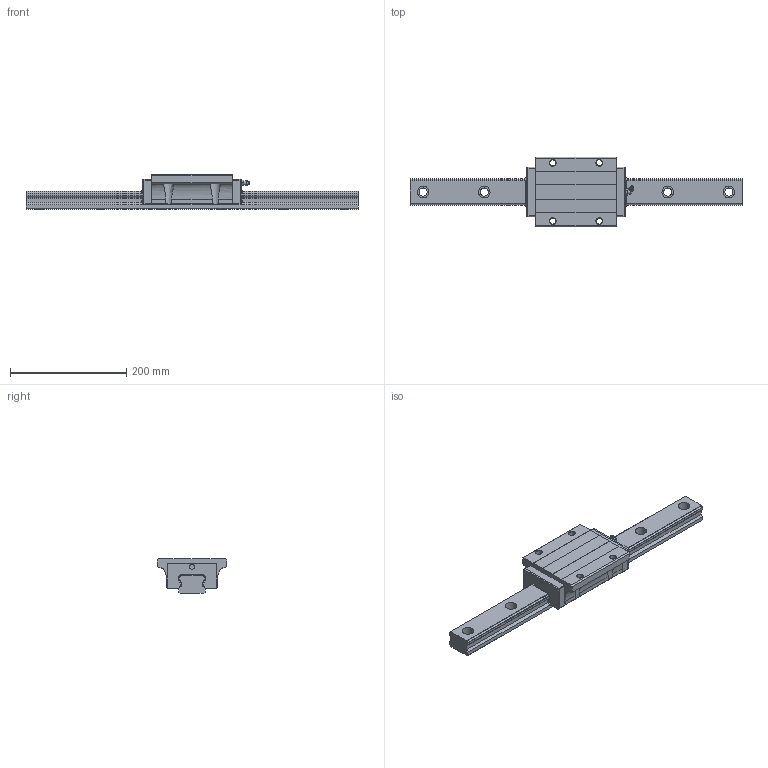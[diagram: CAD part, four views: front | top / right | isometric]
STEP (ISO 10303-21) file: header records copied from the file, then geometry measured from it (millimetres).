
FILE_DESCRIPTION((''),'2;1');
FILE_NAME('C:\Documents and Settings\土屋\My Documents\土屋移動用フォルダ\製品 (図面)\カタログ用3D\リニアガイド\EGH-FL\EGH45FL.stp','2015-12-16T09:25:47',('y'),(''),'Autodesk Inventor 11','Autodesk Inventor 11','');
FILE_SCHEMA(('AUTOMOTIVE_DESIGN { 1 0 10303 214 1 1 1 1 }'));
Length unit declared in the file: millimetre
Products named in the file (3): EGH45FL; EGH45Lレール; EGH45FLキャリッジ
Assembly tree (2 placements, depth 2):
  EGH45FL
    EGH45Lレール
    EGH45FLキャリッジ
Bounding box: 570 x 120 x 60 mm (x, y, z)
Volume: 1340934.2 mm3; surface area: 193675.8 mm2
Topology: 7 solids, 7 shells, 331 faces, 921 edges, 614 vertices
Faces by surface type: plane 179, cylinder 106, bspline 40, cone 4, torus 1, sphere 1
Full cylindrical faces by diameter (mm): 7.75 x1, 8 x6
Entity records: 11204 total; most frequent: CARTESIAN_POINT 2667, ORIENTED_EDGE 1762, DIRECTION 1730, EDGE_CURVE 881, VERTEX_POINT 606, VECTOR 590, LINE 590, AXIS2_PLACEMENT_3D 570
